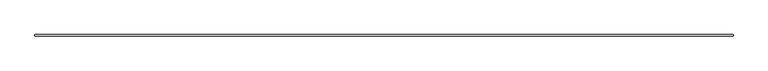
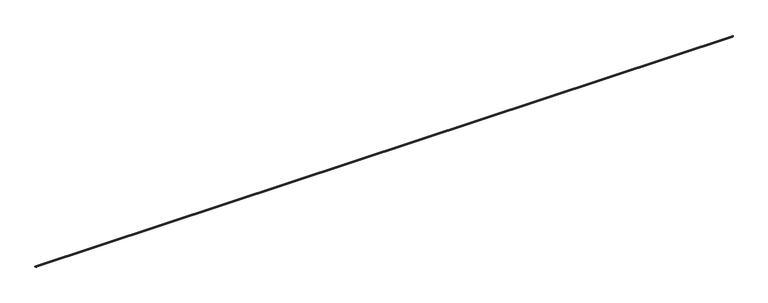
"""IFC4 building model written with IfcOpenShell, lengths in millimetres: slab geometry, ROSA GRES_188 : Pieza 188_Pietro_White_Anti-Slip."""

from ifc_helpers import new_model, si_unit, point, frame, frame_2d, origin, place, context, project, spatial, polyline, circle_curve, trimmed, segment, composite_curve, outline, extrude, source, transform, mapped, element, save


def slab_957b533d(model_context):
    return source(origin(), model_context, "Body", "SweptSolid", [
        extrude(outline(composite_curve([segment(polyline([(0.0, 8.7114978), (0.0, 40.0), (9.9734114, 40.0)]), True, "CONTINUOUS"), segment(trimmed(circle_curve(frame_2d((39.9955547, 39.9955547)), 30.0221435), [point((9.9734114, 40.0))], [point((40.0, 9.9734114))], True, "CARTESIAN"), True, "CONTINUOUS"), segment(polyline([(40.0, 9.9734114), (40.0, 0.0), (8.7114978, 0.0), (0.0, 8.7114978)]), True, "CONTINUOUS")], self_intersect=False)), frame((0.0, 0.0, 0.0), z_axis=(1.0, 0.0, 0.0), x_axis=(0.0, 1.0, 0.0)), (0.0, 0.0, 1.0), 17820.6128229),
    ])


if __name__ == "__main__":
    model = new_model("IFC4")
    model_context = context("Model", 3, world=origin())
    ifc_project = project(units=[si_unit("LENGTHUNIT", "METRE", prefix="MILLI")], contexts=[model_context])
    site = spatial("IfcSite", under=ifc_project)
    building = spatial("IfcBuilding", under=site)
    placement = place(None, origin())
    slab_shape = slab_957b533d(model_context)
    element("IfcSlab", 1, ObjectType="ROSA GRES_188 : Pieza 188_Pietro_White_Anti-Slip", at=placement, inside=building, context=model_context, shape_type="MappedRepresentation", body=[
        mapped(slab_shape, transform((0.0, 0.0, 0.0), x_axis=(1.0, 0.0, 0.0), y_axis=(0.0, 1.0, 0.0), z_axis=(0.0, 0.0, 1.0))),
    ])
    save(model, "model.ifc")
